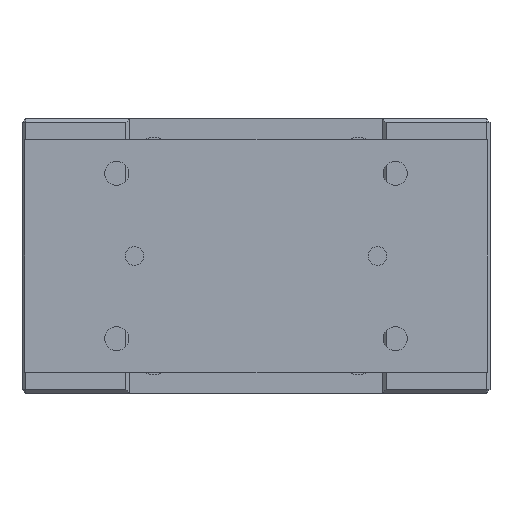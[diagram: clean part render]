
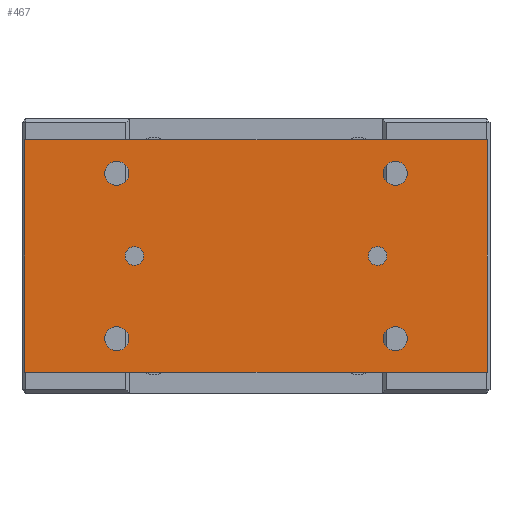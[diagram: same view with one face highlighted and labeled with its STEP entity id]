
A CAD part, left-side view. The second image highlights one B-rep face of the part: STEP entity #467.
In plain terms, the highlighted planar face has unit normal (-1, 0, 0).
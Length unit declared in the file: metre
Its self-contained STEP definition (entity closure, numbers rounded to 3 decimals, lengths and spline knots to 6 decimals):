
#467 = ADVANCED_FACE( '', ( #1125, #1126, #1127, #1128, #1129, #1130, #1131 ), #1132, .T. );
#1125 = FACE_BOUND( '', #2015, .T. );
#1126 = FACE_BOUND( '', #2016, .T. );
#1127 = FACE_BOUND( '', #2017, .T. );
#1128 = FACE_BOUND( '', #2018, .T. );
#1129 = FACE_BOUND( '', #2019, .T. );
#1130 = FACE_BOUND( '', #2020, .T. );
#1131 = FACE_OUTER_BOUND( '', #2021, .T. );
#1132 = PLANE( '', #2022 );
#2015 = EDGE_LOOP( '', ( #3258 ) );
#2016 = EDGE_LOOP( '', ( #3259 ) );
#2017 = EDGE_LOOP( '', ( #3260 ) );
#2018 = EDGE_LOOP( '', ( #3261 ) );
#2019 = EDGE_LOOP( '', ( #3262 ) );
#2020 = EDGE_LOOP( '', ( #3263 ) );
#2021 = EDGE_LOOP( '', ( #3264, #3265, #3266, #3267 ) );
#2022 = AXIS2_PLACEMENT_3D( '', #3268, #3269, #3270 );
#3258 = ORIENTED_EDGE( '', *, *, #4636, .F. );
#3259 = ORIENTED_EDGE( '', *, *, #4637, .T. );
#3260 = ORIENTED_EDGE( '', *, *, #4546, .F. );
#3261 = ORIENTED_EDGE( '', *, *, #4638, .F. );
#3262 = ORIENTED_EDGE( '', *, *, #4639, .F. );
#3263 = ORIENTED_EDGE( '', *, *, #4610, .F. );
#3264 = ORIENTED_EDGE( '', *, *, #4306, .T. );
#3265 = ORIENTED_EDGE( '', *, *, #4640, .T. );
#3266 = ORIENTED_EDGE( '', *, *, #4401, .T. );
#3267 = ORIENTED_EDGE( '', *, *, #4641, .T. );
#3268 = CARTESIAN_POINT( '', ( -0.143, -0.1245, -0.0115 ) );
#3269 = DIRECTION( '', ( -1., 0., 0. ) );
#3270 = DIRECTION( '', ( 0., 0., 1. ) );
#4306 = EDGE_CURVE( '', #4964, #4962, #4965, .T. );
#4401 = EDGE_CURVE( '', #5128, #5126, #5129, .T. );
#4546 = EDGE_CURVE( '', #5354, #5354, #5355, .T. );
#4610 = EDGE_CURVE( '', #5451, #5451, #5452, .T. );
#4636 = EDGE_CURVE( '', #5488, #5488, #5489, .T. );
#4637 = EDGE_CURVE( '', #5490, #5490, #5491, .T. );
#4638 = EDGE_CURVE( '', #5492, #5492, #5493, .T. );
#4639 = EDGE_CURVE( '', #5494, #5494, #5495, .T. );
#4640 = EDGE_CURVE( '', #4962, #5128, #5496, .T. );
#4641 = EDGE_CURVE( '', #5126, #4964, #5497, .T. );
#4962 = VERTEX_POINT( '', #5933 );
#4964 = VERTEX_POINT( '', #5936 );
#4965 = LINE( '', #5937, #5938 );
#5126 = VERTEX_POINT( '', #6181 );
#5128 = VERTEX_POINT( '', #6184 );
#5129 = LINE( '', #6185, #6186 );
#5354 = VERTEX_POINT( '', #6521 );
#5355 = CIRCLE( '', #6522, 0.0065 );
#5451 = VERTEX_POINT( '', #6705 );
#5452 = CIRCLE( '', #6706, 0.0065 );
#5488 = VERTEX_POINT( '', #6784 );
#5489 = CIRCLE( '', #6785, 0.005 );
#5490 = VERTEX_POINT( '', #6786 );
#5491 = CIRCLE( '', #6787, 0.005 );
#5492 = VERTEX_POINT( '', #6788 );
#5493 = CIRCLE( '', #6789, 0.0065 );
#5494 = VERTEX_POINT( '', #6790 );
#5495 = CIRCLE( '', #6791, 0.0065 );
#5496 = LINE( '', #6792, #6793 );
#5497 = LINE( '', #6794, #6795 );
#5933 = CARTESIAN_POINT( '', ( -0.143, -0.1245, -0.0115 ) );
#5936 = CARTESIAN_POINT( '', ( -0.143, -0.1245, -0.1365 ) );
#5937 = CARTESIAN_POINT( '', ( -0.143, -0.1245, -0.1365 ) );
#5938 = VECTOR( '', #7315, 1. );
#6181 = CARTESIAN_POINT( '', ( -0.143, 0.1245, -0.1365 ) );
#6184 = CARTESIAN_POINT( '', ( -0.143, 0.1245, -0.0115 ) );
#6185 = CARTESIAN_POINT( '', ( -0.143, 0.1245, -0.0115 ) );
#6186 = VECTOR( '', #7426, 1. );
#6521 = CARTESIAN_POINT( '', ( -0.143, -0.075, -0.112 ) );
#6522 = AXIS2_PLACEMENT_3D( '', #7585, #7586, #7587 );
#6705 = CARTESIAN_POINT( '', ( -0.143, 0.075, -0.023 ) );
#6706 = AXIS2_PLACEMENT_3D( '', #7669, #7670, #7671 );
#6784 = CARTESIAN_POINT( '', ( -0.143, -0.0705, -0.074 ) );
#6785 = AXIS2_PLACEMENT_3D( '', #7699, #7700, #7701 );
#6786 = CARTESIAN_POINT( '', ( -0.143, 0.0705, -0.074 ) );
#6787 = AXIS2_PLACEMENT_3D( '', #7702, #7703, #7704 );
#6788 = CARTESIAN_POINT( '', ( -0.143, 0.075, -0.112 ) );
#6789 = AXIS2_PLACEMENT_3D( '', #7705, #7706, #7707 );
#6790 = CARTESIAN_POINT( '', ( -0.143, -0.075, -0.023 ) );
#6791 = AXIS2_PLACEMENT_3D( '', #7708, #7709, #7710 );
#6792 = CARTESIAN_POINT( '', ( -0.143, -0.1245, -0.0115 ) );
#6793 = VECTOR( '', #7711, 1. );
#6794 = CARTESIAN_POINT( '', ( -0.143, 0.1245, -0.1365 ) );
#6795 = VECTOR( '', #7712, 1. );
#7315 = DIRECTION( '', ( 0., 0., 1. ) );
#7426 = DIRECTION( '', ( 0., 0., -1. ) );
#7585 = CARTESIAN_POINT( '', ( -0.143, -0.075, -0.1185 ) );
#7586 = DIRECTION( '', ( -1., 0., 0. ) );
#7587 = DIRECTION( '', ( 0., 0., 1. ) );
#7669 = CARTESIAN_POINT( '', ( -0.143, 0.075, -0.0295 ) );
#7670 = DIRECTION( '', ( -1., 0., 0. ) );
#7671 = DIRECTION( '', ( 0., 0., 1. ) );
#7699 = CARTESIAN_POINT( '', ( -0.143, -0.0655, -0.074 ) );
#7700 = DIRECTION( '', ( -1., 0., 0. ) );
#7701 = DIRECTION( '', ( 0., -1., 0. ) );
#7702 = CARTESIAN_POINT( '', ( -0.143, 0.0655, -0.074 ) );
#7703 = DIRECTION( '', ( 1., 0., 0. ) );
#7704 = DIRECTION( '', ( 0., 1., 0. ) );
#7705 = CARTESIAN_POINT( '', ( -0.143, 0.075, -0.1185 ) );
#7706 = DIRECTION( '', ( -1., 0., 0. ) );
#7707 = DIRECTION( '', ( 0., 0., 1. ) );
#7708 = CARTESIAN_POINT( '', ( -0.143, -0.075, -0.0295 ) );
#7709 = DIRECTION( '', ( -1., 0., 0. ) );
#7710 = DIRECTION( '', ( 0., 0., 1. ) );
#7711 = DIRECTION( '', ( 0., 1., 0. ) );
#7712 = DIRECTION( '', ( 0., -1., 0. ) );
